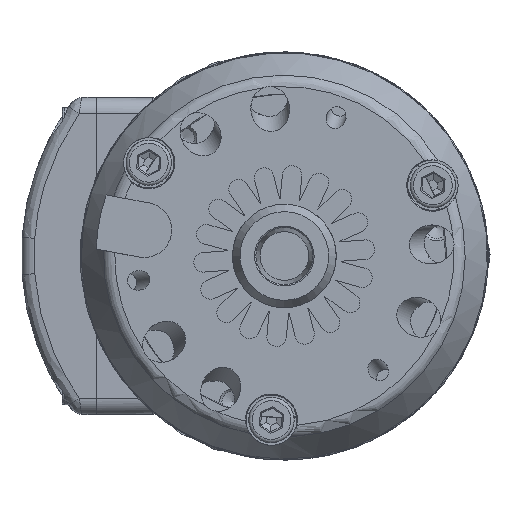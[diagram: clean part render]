
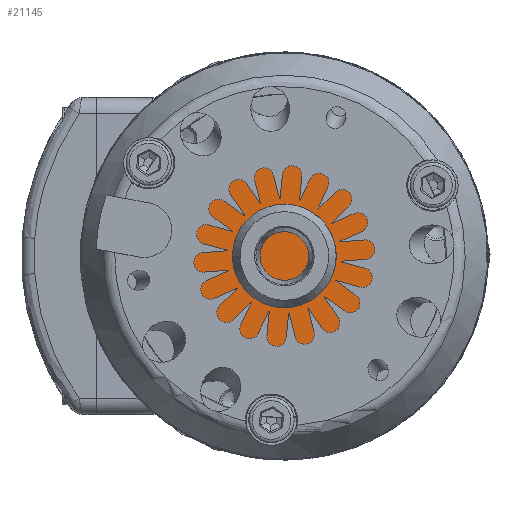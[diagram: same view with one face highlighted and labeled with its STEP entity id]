
A CAD part, front view. The second image highlights one B-rep face of the part: STEP entity #21145.
In plain terms, the highlighted planar face has unit normal (0, -1, 0).
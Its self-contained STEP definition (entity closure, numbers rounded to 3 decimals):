
#1721 = DIRECTION ( 'NONE',  ( 0., 1., 0. ) ) ;
#2994 = EDGE_LOOP ( 'NONE', ( #33962 ) ) ;
#3716 = AXIS2_PLACEMENT_3D ( 'NONE', #5560, #10216, #17574 ) ;
#5161 = PLANE ( 'NONE',  #15475 ) ;
#5560 = CARTESIAN_POINT ( 'NONE',  ( 0., 54.7, 0. ) ) ;
#9324 = CARTESIAN_POINT ( 'NONE',  ( 0., 54.7, 18.498 ) ) ;
#10216 = DIRECTION ( 'NONE',  ( 0., -1., 0. ) ) ;
#14195 = VERTEX_POINT ( 'NONE', #36799 ) ;
#15475 = AXIS2_PLACEMENT_3D ( 'NONE', #9324, #1721, #28714 ) ;
#16230 = CIRCLE ( 'NONE', #3716, 18.498 ) ;
#16447 = FACE_OUTER_BOUND ( 'NONE', #2994, .T. ) ;
#17574 = DIRECTION ( 'NONE',  ( -1., 0., 0. ) ) ;
#18782 = EDGE_CURVE ( 'NONE', #14195, #14195, #16230, .T. ) ;
#21145 = ADVANCED_FACE ( 'NONE', ( #16447 ), #5161, .F. ) ;
#28714 = DIRECTION ( 'NONE',  ( 1., 0., 0. ) ) ;
#33962 = ORIENTED_EDGE ( 'NONE', *, *, #18782, .T. ) ;
#36799 = CARTESIAN_POINT ( 'NONE',  ( -18.498, 54.7, 0. ) ) ;
